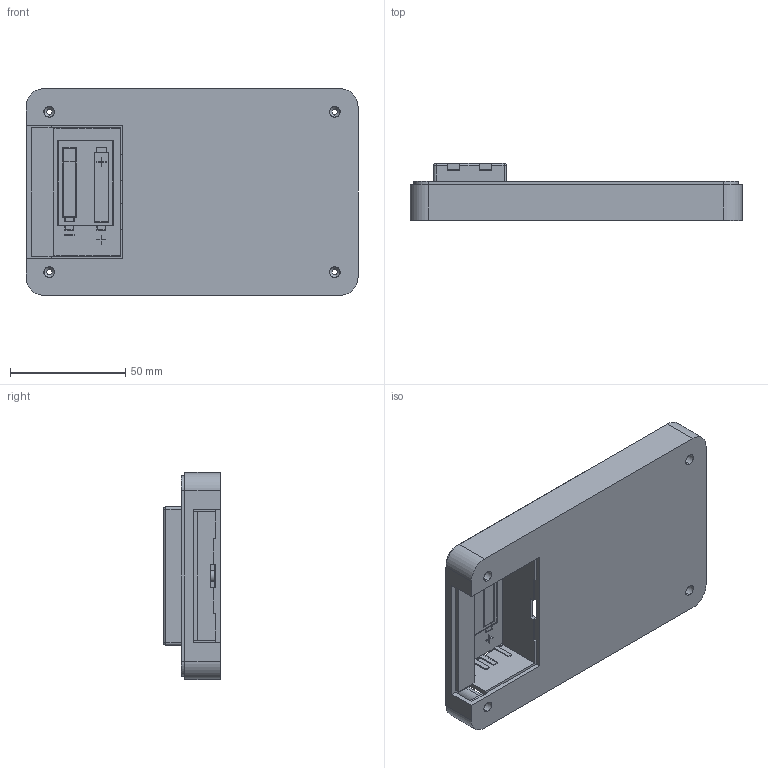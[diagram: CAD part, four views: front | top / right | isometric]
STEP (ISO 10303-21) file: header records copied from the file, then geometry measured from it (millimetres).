
FILE_DESCRIPTION (( 'STEP AP214' ), '1' );
FILE_NAME ('Cos PP82.STEP', '2018-01-23T11:18:21', ( 'aaa' ), ( '' ), 'SwSTEP 2.0', 'SolidWorks 2013', '' );
FILE_SCHEMA (( 'AUTOMOTIVE_DESIGN' ));
Length unit declared in the file: millimetre
Products named in the file (1): Cos PP82
Bounding box: 144 x 24.7 x 89.8 mm (x, y, z)
Volume: 54825.2 mm3; surface area: 47974.7 mm2
Topology: 1 solids, 1 shells, 334 faces, 914 edges, 598 vertices
Faces by surface type: plane 254, cylinder 68, cone 8, sphere 4
Entity records: 10508 total; most frequent: CARTESIAN_POINT 1843, ORIENTED_EDGE 1820, DIRECTION 1724, EDGE_CURVE 910, VECTOR 766, LINE 766, VERTEX_POINT 598, AXIS2_PLACEMENT_3D 479
